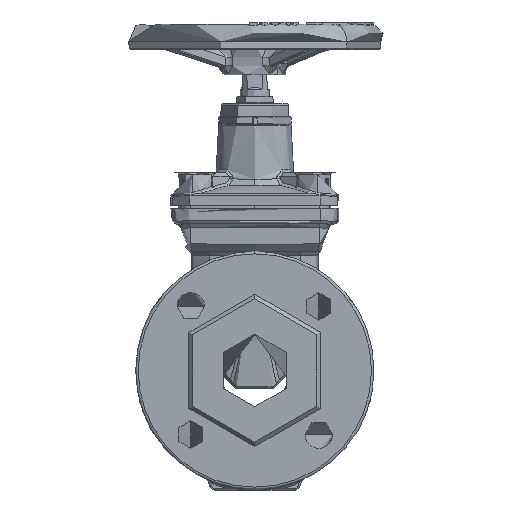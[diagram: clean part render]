
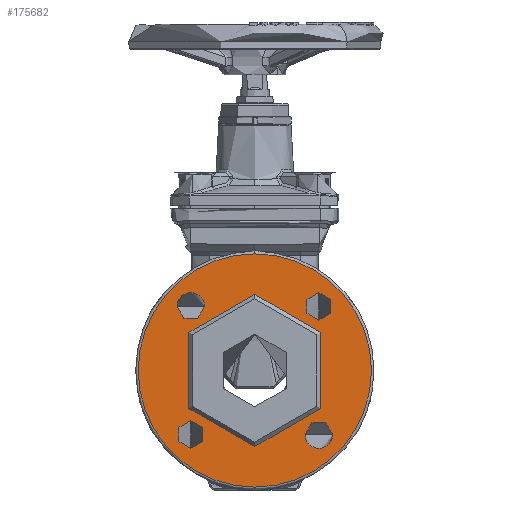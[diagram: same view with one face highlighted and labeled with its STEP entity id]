
A CAD part, front view. The second image highlights one B-rep face of the part: STEP entity #175682.
In plain terms, the highlighted planar face has unit normal (0, -1, 0).
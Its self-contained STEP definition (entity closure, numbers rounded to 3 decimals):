
#597 = AXIS2_PLACEMENT_3D ( 'NONE', #44068, #110053, #192812 ) ;
#1467 = ORIENTED_EDGE ( 'NONE', *, *, #212451, .F. ) ;
#2265 = EDGE_CURVE ( 'NONE', #5861, #228707, #37667, .T. ) ;
#5861 = VERTEX_POINT ( 'NONE', #210405 ) ;
#7899 = DIRECTION ( 'NONE',  ( 0., -1., 0. ) ) ;
#14877 = ORIENTED_EDGE ( 'NONE', *, *, #54564, .F. ) ;
#16519 = CARTESIAN_POINT ( 'NONE',  ( 44.194, -72., -156.194 ) ) ;
#18343 = DIRECTION ( 'NONE',  ( -1., 0., 0. ) ) ;
#26091 = AXIS2_PLACEMENT_3D ( 'NONE', #125399, #273092, #18343 ) ;
#34917 = DIRECTION ( 'NONE',  ( -1., 0., 0. ) ) ;
#35205 = EDGE_LOOP ( 'NONE', ( #193205, #157958 ) ) ;
#37667 = CIRCLE ( 'NONE', #138062, 52.5 ) ;
#39081 = CIRCLE ( 'NONE', #26091, 9.5 ) ;
#44068 = CARTESIAN_POINT ( 'NONE',  ( 0., -72., -112. ) ) ;
#44459 = AXIS2_PLACEMENT_3D ( 'NONE', #254730, #255648, #145308 ) ;
#46139 = ORIENTED_EDGE ( 'NONE', *, *, #143971, .T. ) ;
#47994 = CARTESIAN_POINT ( 'NONE',  ( -44.194, -72., -165.694 ) ) ;
#48602 = DIRECTION ( 'NONE',  ( 0., 0., 1. ) ) ;
#50819 = EDGE_CURVE ( 'NONE', #111858, #172848, #225194, .T. ) ;
#51026 = ORIENTED_EDGE ( 'NONE', *, *, #79486, .F. ) ;
#53957 = CARTESIAN_POINT ( 'NONE',  ( -53.694, -72., -67.806 ) ) ;
#54352 = FACE_OUTER_BOUND ( 'NONE', #68382, .T. ) ;
#54564 = EDGE_CURVE ( 'NONE', #156244, #250225, #130342, .T. ) ;
#55422 = EDGE_LOOP ( 'NONE', ( #14877, #1467 ) ) ;
#56824 = ORIENTED_EDGE ( 'NONE', *, *, #264550, .F. ) ;
#57512 = CIRCLE ( 'NONE', #74164, 9.5 ) ;
#57584 = CIRCLE ( 'NONE', #211946, 80.5 ) ;
#57629 = FACE_BOUND ( 'NONE', #55422, .T. ) ;
#68382 = EDGE_LOOP ( 'NONE', ( #255705, #74373 ) ) ;
#70709 = AXIS2_PLACEMENT_3D ( 'NONE', #114509, #263191, #157305 ) ;
#73086 = CARTESIAN_POINT ( 'NONE',  ( -44.194, -72., -156.194 ) ) ;
#74164 = AXIS2_PLACEMENT_3D ( 'NONE', #122910, #251026, #123848 ) ;
#74373 = ORIENTED_EDGE ( 'NONE', *, *, #249427, .T. ) ;
#74517 = CARTESIAN_POINT ( 'NONE',  ( 44.194, -72., -67.806 ) ) ;
#78896 = DIRECTION ( 'NONE',  ( 0., -1., 0. ) ) ;
#79486 = EDGE_CURVE ( 'NONE', #106087, #92923, #39081, .T. ) ;
#84443 = CARTESIAN_POINT ( 'NONE',  ( 53.694, -72., -156.194 ) ) ;
#88392 = AXIS2_PLACEMENT_3D ( 'NONE', #16519, #78896, #161670 ) ;
#89613 = EDGE_CURVE ( 'NONE', #92923, #106087, #57512, .T. ) ;
#89768 = CIRCLE ( 'NONE', #111310, 9.5 ) ;
#91529 = AXIS2_PLACEMENT_3D ( 'NONE', #73086, #7899, #220868 ) ;
#91958 = CARTESIAN_POINT ( 'NONE',  ( -34.694, -72., -67.806 ) ) ;
#92645 = DIRECTION ( 'NONE',  ( 0., 0., 1. ) ) ;
#92923 = VERTEX_POINT ( 'NONE', #91958 ) ;
#94795 = VERTEX_POINT ( 'NONE', #250431 ) ;
#98366 = CIRCLE ( 'NONE', #44459, 80.5 ) ;
#105080 = EDGE_LOOP ( 'NONE', ( #181175, #56824 ) ) ;
#106086 = DIRECTION ( 'NONE',  ( 0., 1., 0. ) ) ;
#106087 = VERTEX_POINT ( 'NONE', #53957 ) ;
#110053 = DIRECTION ( 'NONE',  ( 0., 1., 0. ) ) ;
#110780 = ORIENTED_EDGE ( 'NONE', *, *, #89613, .F. ) ;
#111310 = AXIS2_PLACEMENT_3D ( 'NONE', #251432, #124252, #34917 ) ;
#111858 = VERTEX_POINT ( 'NONE', #47994 ) ;
#112251 = CARTESIAN_POINT ( 'NONE',  ( 0., -72., -112. ) ) ;
#112742 = CARTESIAN_POINT ( 'NONE',  ( -44.194, -72., -156.194 ) ) ;
#114063 = FACE_BOUND ( 'NONE', #105080, .T. ) ;
#114509 = CARTESIAN_POINT ( 'NONE',  ( 44.194, -72., -67.806 ) ) ;
#122910 = CARTESIAN_POINT ( 'NONE',  ( -44.194, -72., -67.806 ) ) ;
#123848 = DIRECTION ( 'NONE',  ( 1., 0., 0. ) ) ;
#124252 = DIRECTION ( 'NONE',  ( 0., -1., 0. ) ) ;
#125399 = CARTESIAN_POINT ( 'NONE',  ( -44.194, -72., -67.806 ) ) ;
#128506 = DIRECTION ( 'NONE',  ( 0., 0., -1. ) ) ;
#130342 = CIRCLE ( 'NONE', #88392, 9.5 ) ;
#138062 = AXIS2_PLACEMENT_3D ( 'NONE', #112251, #261815, #92645 ) ;
#140477 = EDGE_LOOP ( 'NONE', ( #51026, #110780 ) ) ;
#143971 = EDGE_CURVE ( 'NONE', #5861, #228707, #222177, .T. ) ;
#145308 = DIRECTION ( 'NONE',  ( 0., 0., -1. ) ) ;
#146398 = ORIENTED_EDGE ( 'NONE', *, *, #2265, .F. ) ;
#147061 = EDGE_CURVE ( 'NONE', #197391, #94795, #204874, .T. ) ;
#147505 = CARTESIAN_POINT ( 'NONE',  ( 0., -72., -164.5 ) ) ;
#150387 = CIRCLE ( 'NONE', #70709, 9.5 ) ;
#150748 = CARTESIAN_POINT ( 'NONE',  ( 0., -72., -112. ) ) ;
#155521 = CARTESIAN_POINT ( 'NONE',  ( 0., -72., -31.5 ) ) ;
#156244 = VERTEX_POINT ( 'NONE', #84443 ) ;
#157305 = DIRECTION ( 'NONE',  ( 0., 0., 1. ) ) ;
#157958 = ORIENTED_EDGE ( 'NONE', *, *, #147061, .F. ) ;
#161670 = DIRECTION ( 'NONE',  ( 1., 0., 0. ) ) ;
#164033 = FACE_BOUND ( 'NONE', #172725, .T. ) ;
#167466 = FACE_BOUND ( 'NONE', #140477, .T. ) ;
#171153 = CARTESIAN_POINT ( 'NONE',  ( -44.194, -72., -146.694 ) ) ;
#172725 = EDGE_LOOP ( 'NONE', ( #146398, #46139 ) ) ;
#172848 = VERTEX_POINT ( 'NONE', #171153 ) ;
#173734 = EDGE_CURVE ( 'NONE', #94795, #197391, #150387, .T. ) ;
#175682 = ADVANCED_FACE ( 'NONE', ( #114063, #57629, #220523, #167466, #164033, #54352 ), #251057, .F. ) ;
#181175 = ORIENTED_EDGE ( 'NONE', *, *, #50819, .F. ) ;
#188044 = EDGE_CURVE ( 'NONE', #195018, #274174, #57584, .T. ) ;
#192812 = DIRECTION ( 'NONE',  ( 0., 0., 1. ) ) ;
#193205 = ORIENTED_EDGE ( 'NONE', *, *, #173734, .F. ) ;
#194942 = CIRCLE ( 'NONE', #267635, 9.5 ) ;
#195018 = VERTEX_POINT ( 'NONE', #155521 ) ;
#197391 = VERTEX_POINT ( 'NONE', #219204 ) ;
#199231 = CARTESIAN_POINT ( 'NONE',  ( 0., -72., -192.5 ) ) ;
#201774 = DIRECTION ( 'NONE',  ( 0., 0., -1. ) ) ;
#204874 = CIRCLE ( 'NONE', #245208, 9.5 ) ;
#205568 = CARTESIAN_POINT ( 'NONE',  ( 34.694, -72., -156.194 ) ) ;
#206734 = DIRECTION ( 'NONE',  ( 0., -1., 0. ) ) ;
#210405 = CARTESIAN_POINT ( 'NONE',  ( 0., -72., -59.5 ) ) ;
#211946 = AXIS2_PLACEMENT_3D ( 'NONE', #227192, #206734, #247548 ) ;
#212451 = EDGE_CURVE ( 'NONE', #250225, #156244, #89768, .T. ) ;
#219204 = CARTESIAN_POINT ( 'NONE',  ( 44.194, -72., -77.306 ) ) ;
#220523 = FACE_BOUND ( 'NONE', #35205, .T. ) ;
#220868 = DIRECTION ( 'NONE',  ( 0., 0., -1. ) ) ;
#222177 = CIRCLE ( 'NONE', #597, 52.5 ) ;
#222297 = DIRECTION ( 'NONE',  ( 0., -1., 0. ) ) ;
#225194 = CIRCLE ( 'NONE', #91529, 9.5 ) ;
#227192 = CARTESIAN_POINT ( 'NONE',  ( 0., -72., -112. ) ) ;
#228707 = VERTEX_POINT ( 'NONE', #147505 ) ;
#245208 = AXIS2_PLACEMENT_3D ( 'NONE', #74517, #222297, #201774 ) ;
#247548 = DIRECTION ( 'NONE',  ( 0., 0., 1. ) ) ;
#248900 = AXIS2_PLACEMENT_3D ( 'NONE', #150748, #106086, #128506 ) ;
#249427 = EDGE_CURVE ( 'NONE', #274174, #195018, #98366, .T. ) ;
#250225 = VERTEX_POINT ( 'NONE', #205568 ) ;
#250431 = CARTESIAN_POINT ( 'NONE',  ( 44.194, -72., -58.306 ) ) ;
#251026 = DIRECTION ( 'NONE',  ( 0., -1., 0. ) ) ;
#251057 = PLANE ( 'NONE',  #248900 ) ;
#251432 = CARTESIAN_POINT ( 'NONE',  ( 44.194, -72., -156.194 ) ) ;
#254730 = CARTESIAN_POINT ( 'NONE',  ( 0., -72., -112. ) ) ;
#255648 = DIRECTION ( 'NONE',  ( 0., -1., 0. ) ) ;
#255705 = ORIENTED_EDGE ( 'NONE', *, *, #188044, .T. ) ;
#261400 = DIRECTION ( 'NONE',  ( 0., -1., 0. ) ) ;
#261815 = DIRECTION ( 'NONE',  ( 0., -1., 0. ) ) ;
#263191 = DIRECTION ( 'NONE',  ( 0., -1., 0. ) ) ;
#264550 = EDGE_CURVE ( 'NONE', #172848, #111858, #194942, .T. ) ;
#267635 = AXIS2_PLACEMENT_3D ( 'NONE', #112742, #261400, #48602 ) ;
#273092 = DIRECTION ( 'NONE',  ( 0., -1., 0. ) ) ;
#274174 = VERTEX_POINT ( 'NONE', #199231 ) ;
